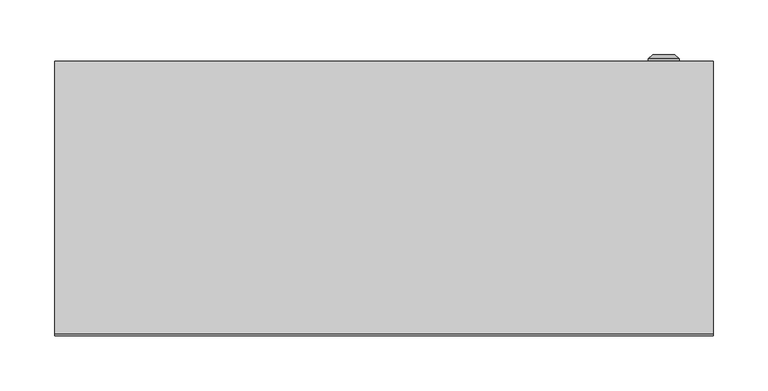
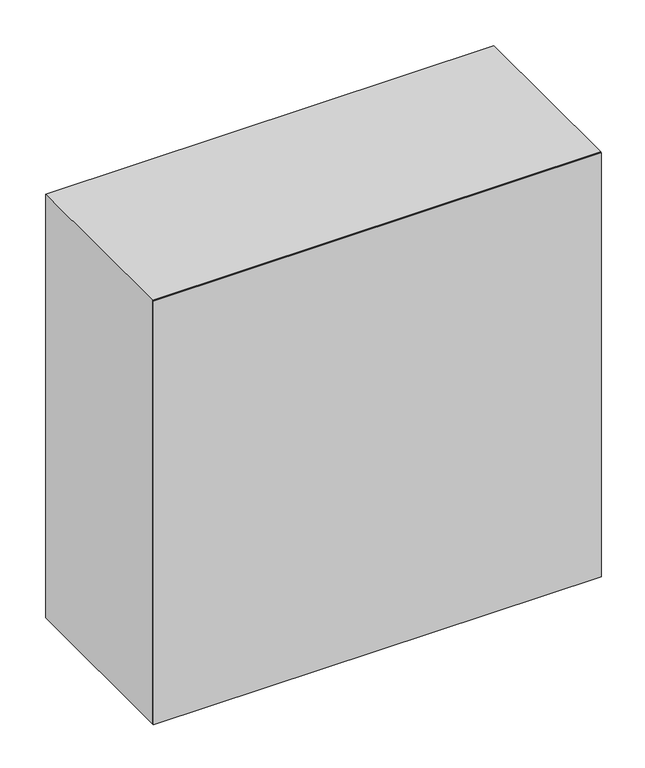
"""IFC4 building model written with IfcOpenShell, lengths in millimetres: proxy geometry, ЩМП : ЩМП-6.6.2-0_600х600х250."""

from ifc_helpers import new_model, si_unit, frame, origin, origin_with_axes, place, context, project, spatial, polyline, circle_curve, outline, extrude, source, transform, mapped, element, save
from ifc_brep_helpers import plane_surface, cylinder_surface, revolved_surface, advanced_brep


def electrical_equipment_2b144cbb(model_context):
    return source(origin(), model_context, "Body", "SolidModel", [
        advanced_brep(
        [(240.669873, 250.0, 300.0), (269.330127, 250.0, 300.0), (255.0, 250.0, 300.0), (240.669873, 252.366592, 300.0), (269.330127, 252.366592, 300.0), (245.0, 256.0, 300.0), (265.0, 256.0, 300.0), (253.1080471, 256.0, 300.0), (256.8919529, 256.0, 300.0), (253.1080471, 254.9822294, 300.0), (256.8919529, 254.9822294, 300.0), (255.0, 254.9822294, 300.0)],
        [
            (0, 1, circle_curve(frame((255.0, 250.0, 300.0), z_axis=(0.0, -1.0, 0.0), x_axis=(1.0, 0.0, 0.0)), 14.330127)),
            (1, 2),
            (2, 0),
            (1, 0, circle_curve(frame((255.0, 250.0, 300.0), z_axis=(0.0, -1.0, 0.0), x_axis=(1.0, 0.0, 0.0)), 14.330127)),
            (3, 4, circle_curve(frame((255.0, 252.366592, 300.0), z_axis=(0.0, -1.0, 0.0), x_axis=(1.0, 0.0, 0.0)), 14.330127)),
            (4, 1),
            (0, 3),
            (4, 3, circle_curve(frame((255.0, 252.366592, 300.0), z_axis=(0.0, -1.0, 0.0), x_axis=(1.0, 0.0, 0.0)), 14.330127)),
            (5, 6, circle_curve(frame((255.0, 256.0, 300.0), z_axis=(0.0, -1.0, 0.0), x_axis=(1.0, 0.0, 0.0)), 10.0)),
            (6, 4),
            (3, 5),
            (6, 5, circle_curve(frame((255.0, 256.0, 300.0), z_axis=(0.0, -1.0, 0.0), x_axis=(1.0, 0.0, 0.0)), 10.0)),
            (7, 8, circle_curve(frame((255.0, 256.0, 300.0), z_axis=(0.0, -1.0, 0.0), x_axis=(1.0, 0.0, 0.0)), 1.8919529)),
            (8, 6),
            (5, 7),
            (8, 7, circle_curve(frame((255.0, 256.0, 300.0), z_axis=(0.0, -1.0, 0.0), x_axis=(1.0, 0.0, 0.0)), 1.8919529)),
            (9, 10, circle_curve(frame((255.0, 254.9822294, 300.0), z_axis=(0.0, -1.0, 0.0), x_axis=(1.0, 0.0, 0.0)), 1.8919529)),
            (10, 8),
            (7, 9),
            (10, 9, circle_curve(frame((255.0, 254.9822294, 300.0), z_axis=(0.0, -1.0, 0.0), x_axis=(1.0, 0.0, 0.0)), 1.8919529)),
            (11, 10),
            (9, 11),
        ],
        [
            plane_surface(frame((255.0, 250.0, 300.0), z_axis=(0.0, -1.0, 0.0), x_axis=(1.0, 0.0, 0.0))),
            cylinder_surface(frame((255.0, 263.1348851, 300.0), z_axis=(0.0, 1.0, 0.0), x_axis=(1.0, 0.0, 0.0)), 14.330127),
            revolved_surface(polyline([(269.330127, 252.366592, 300.0), (265.0, 256.0, 300.0)]), (255.0, 263.1348851, 300.0), (0.0, 1.0, 0.0)),
            plane_surface(frame((255.0, 256.0, 300.0), z_axis=(0.0, 1.0, 0.0), x_axis=(1.0, 0.0, 0.0))),
            revolved_surface(polyline([(256.8919529, 256.0, 300.0), (256.8919529, 254.9822294, 300.0)]), (255.0, 263.1348851, 300.0), (0.0, 1.0, 0.0)),
            plane_surface(frame((255.0, 254.9822294, 300.0), z_axis=(0.0, 1.0, 0.0), x_axis=(1.0, 0.0, 0.0))),
        ],
        [
            (0, [[1, 2, 3]]),
            (0, [[4, -3, -2]]),
            (1, [[5, 6, -1, 7]]),
            (1, [[8, -7, -4, -6]]),
            (2, [[9, 10, -5, 11]]),
            (2, [[12, -11, -8, -10]]),
            (3, [[13, 14, -9, 15]]),
            (3, [[16, -15, -12, -14]]),
            (4, [[17, 18, -13, 19]]),
            (4, [[20, -19, -16, -18]]),
            (5, [[21, -17, 22]]),
            (5, [[-22, -20, -21]]),
        ],
    ),
        extrude(outline(polyline([(281.5, 225.0), (-281.5, 225.0), (-281.5, 250.0), (281.5, 250.0), (281.5, 225.0)])), frame((0.0, 0.0, 18.5), z_axis=(0.0, 0.0, 1.0), x_axis=(1.0, 0.0, 0.0)), (0.0, 0.0, 1.0), 563.0),
        extrude(outline(polyline([(600.0, -300.0033905), (0.0, -300.0033905), (0.0, 299.9966095), (600.0, 299.9966095), (600.0, -300.0033905)]), holes=[polyline([(565.0, -265.0033905), (565.0, 264.9966095), (35.0, 264.9966095), (35.0, -265.0033905), (565.0, -265.0033905)])]), frame((0.0, 2.0, 0.0), z_axis=(0.0, 1.0, 0.0), x_axis=(0.0, 0.0, 1.0)), (0.0, 0.0, 1.0), 248.0),
        extrude(outline(polyline([(300.0, 0.0), (-300.0, 0.0), (-300.0, 2.0), (300.0, 2.0), (300.0, 0.0)])), origin_with_axes(), (0.0, 0.0, 1.0), 600.0),
    ])


if __name__ == "__main__":
    model = new_model("IFC4")
    model_context = context("Model", 3, world=origin())
    ifc_project = project(units=[si_unit("LENGTHUNIT", "METRE", prefix="MILLI")], contexts=[model_context])
    site = spatial("IfcSite", under=ifc_project)
    building = spatial("IfcBuilding", under=site)
    placement = place(None, origin())
    electrical_equipment_shape = electrical_equipment_2b144cbb(model_context)
    element("IfcBuildingElementProxy", 1, Name="ЩМП : ЩМП-6.6.2-0_600х600х250", ObjectType="ЩМП : ЩМП-6.6.2-0_600х600х250", at=placement, inside=building, context=model_context, shape_type="MappedRepresentation", body=[
        mapped(electrical_equipment_shape, transform((0.0, 0.0, 0.0), x_axis=(1.0, 0.0, 0.0), y_axis=(0.0, 1.0, 0.0), z_axis=(0.0, 0.0, 1.0))),
    ])
    save(model, "model.ifc")
